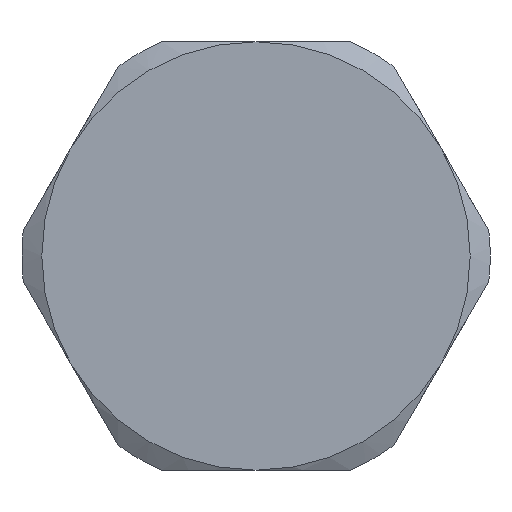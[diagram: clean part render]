
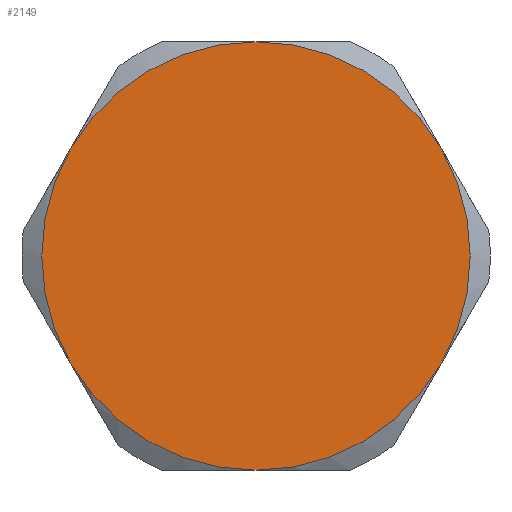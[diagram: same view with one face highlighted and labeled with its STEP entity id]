
A CAD part, left-side view. The second image highlights one B-rep face of the part: STEP entity #2149.
In plain terms, the highlighted planar face has unit normal (-1, 0, 0).
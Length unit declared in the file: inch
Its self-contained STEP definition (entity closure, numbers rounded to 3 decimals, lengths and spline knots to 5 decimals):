
#432=PLANE('',#2385);
#537=FACE_OUTER_BOUND('',#735,.T.);
#735=EDGE_LOOP('',(#1125,#1126,#1127,#1128,#1129,#1130));
#1125=ORIENTED_EDGE('',*,*,#1546,.T.);
#1126=ORIENTED_EDGE('',*,*,#1542,.T.);
#1127=ORIENTED_EDGE('',*,*,#1538,.T.);
#1128=ORIENTED_EDGE('',*,*,#1536,.T.);
#1129=ORIENTED_EDGE('',*,*,#1532,.T.);
#1130=ORIENTED_EDGE('',*,*,#1528,.T.);
#1528=EDGE_CURVE('',#1789,#1791,#1994,.T.);
#1532=EDGE_CURVE('',#1793,#1789,#1996,.T.);
#1536=EDGE_CURVE('',#1796,#1793,#1998,.T.);
#1538=EDGE_CURVE('',#1799,#1796,#1999,.T.);
#1542=EDGE_CURVE('',#1802,#1799,#2001,.T.);
#1546=EDGE_CURVE('',#1791,#1802,#2003,.T.);
#1789=VERTEX_POINT('',#3342);
#1791=VERTEX_POINT('',#3348);
#1793=VERTEX_POINT('',#3355);
#1796=VERTEX_POINT('',#3367);
#1799=VERTEX_POINT('',#3382);
#1802=VERTEX_POINT('',#3394);
#1994=CIRCLE('',#2345,0.5);
#1996=CIRCLE('',#2348,0.5);
#1998=CIRCLE('',#2351,0.5);
#1999=CIRCLE('',#2353,0.5);
#2001=CIRCLE('',#2356,0.5);
#2003=CIRCLE('',#2359,0.5);
#2149=ADVANCED_FACE('',(#537),#432,.F.);
#2345=AXIS2_PLACEMENT_3D('',#3352,#2707,#2708);
#2348=AXIS2_PLACEMENT_3D('',#3364,#2713,#2714);
#2351=AXIS2_PLACEMENT_3D('',#3376,#2719,#2720);
#2353=AXIS2_PLACEMENT_3D('',#3383,#2723,#2724);
#2356=AXIS2_PLACEMENT_3D('',#3395,#2729,#2730);
#2359=AXIS2_PLACEMENT_3D('',#3406,#2735,#2736);
#2385=AXIS2_PLACEMENT_3D('',#3496,#2799,#2800);
#2707=DIRECTION('center_axis',(-1.,0.,0.));
#2708=DIRECTION('ref_axis',(0.,1.,0.));
#2713=DIRECTION('center_axis',(-1.,0.,0.));
#2714=DIRECTION('ref_axis',(0.,1.,0.));
#2719=DIRECTION('center_axis',(-1.,0.,0.));
#2720=DIRECTION('ref_axis',(0.,1.,0.));
#2723=DIRECTION('center_axis',(-1.,0.,0.));
#2724=DIRECTION('ref_axis',(0.,1.,0.));
#2729=DIRECTION('center_axis',(-1.,0.,0.));
#2730=DIRECTION('ref_axis',(0.,1.,0.));
#2735=DIRECTION('center_axis',(-1.,0.,0.));
#2736=DIRECTION('ref_axis',(0.,1.,0.));
#2799=DIRECTION('center_axis',(1.,0.,0.));
#2800=DIRECTION('ref_axis',(0.,0.,-1.));
#3342=CARTESIAN_POINT('',(-0.75,-0.43301,-0.25));
#3348=CARTESIAN_POINT('',(-0.75,-0.43301,0.25));
#3352=CARTESIAN_POINT('Origin',(-0.75,0.,
0.));
#3355=CARTESIAN_POINT('',(-0.75,0.,-0.5));
#3364=CARTESIAN_POINT('Origin',(-0.75,0.,
0.));
#3367=CARTESIAN_POINT('',(-0.75,0.43301,-0.25));
#3376=CARTESIAN_POINT('Origin',(-0.75,0.,
0.));
#3382=CARTESIAN_POINT('',(-0.75,0.43301,0.25));
#3383=CARTESIAN_POINT('Origin',(-0.75,0.,
0.));
#3394=CARTESIAN_POINT('',(-0.75,0.,0.5));
#3395=CARTESIAN_POINT('Origin',(-0.75,0.,
0.));
#3406=CARTESIAN_POINT('Origin',(-0.75,0.,
0.));
#3496=CARTESIAN_POINT('Origin',(-0.75,0.,0.));
